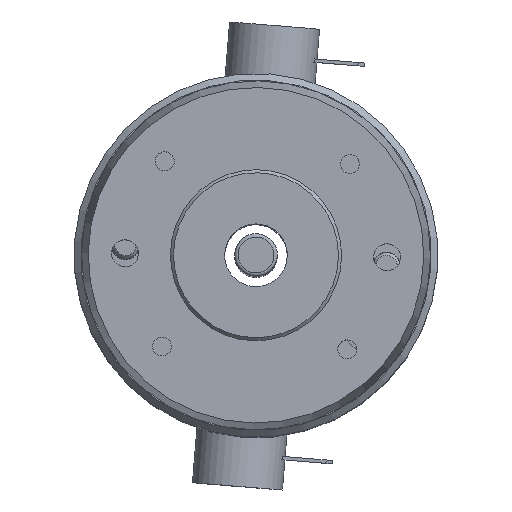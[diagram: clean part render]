
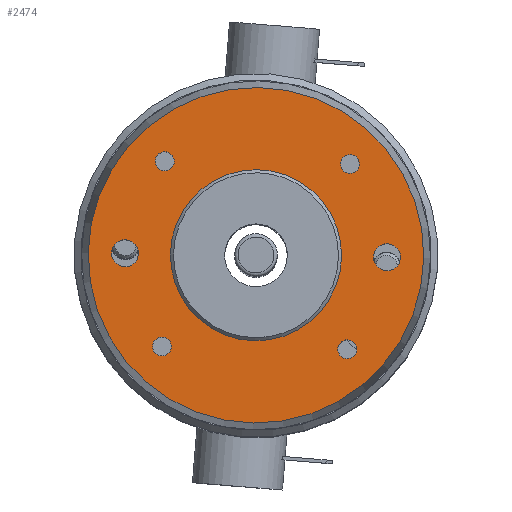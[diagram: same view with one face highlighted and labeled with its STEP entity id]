
A CAD part, top view. The second image highlights one B-rep face of the part: STEP entity #2474.
In plain terms, the highlighted planar face has unit normal (0, 0, 1).
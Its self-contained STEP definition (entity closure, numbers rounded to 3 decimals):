
#564=FACE_BOUND('',#764,.T.);
#565=FACE_BOUND('',#765,.T.);
#566=FACE_BOUND('',#766,.T.);
#567=FACE_BOUND('',#767,.T.);
#568=FACE_BOUND('',#768,.T.);
#569=FACE_BOUND('',#769,.T.);
#570=FACE_BOUND('',#770,.T.);
#614=FACE_OUTER_BOUND('',#763,.T.);
#763=EDGE_LOOP('',(#1714));
#764=EDGE_LOOP('',(#1715,#1716));
#765=EDGE_LOOP('',(#1717,#1718));
#766=EDGE_LOOP('',(#1719,#1720));
#767=EDGE_LOOP('',(#1721,#1722));
#768=EDGE_LOOP('',(#1723));
#769=EDGE_LOOP('',(#1724));
#770=EDGE_LOOP('',(#1725));
#944=CIRCLE('',#2878,1.4);
#945=CIRCLE('',#2879,1.4);
#947=CIRCLE('',#2882,1.4);
#948=CIRCLE('',#2883,1.4);
#950=CIRCLE('',#2886,1.4);
#951=CIRCLE('',#2887,1.4);
#953=CIRCLE('',#2890,1.4);
#954=CIRCLE('',#2891,1.4);
#955=CIRCLE('',#2893,2.);
#957=CIRCLE('',#2896,2.);
#961=CIRCLE('',#2903,12.7);
#962=CIRCLE('',#2905,24.9);
#1080=VERTEX_POINT('',#3988);
#1081=VERTEX_POINT('',#3990);
#1083=VERTEX_POINT('',#3996);
#1084=VERTEX_POINT('',#3998);
#1086=VERTEX_POINT('',#4004);
#1087=VERTEX_POINT('',#4006);
#1089=VERTEX_POINT('',#4012);
#1090=VERTEX_POINT('',#4014);
#1091=VERTEX_POINT('',#4018);
#1093=VERTEX_POINT('',#4024);
#1097=VERTEX_POINT('',#4038);
#1098=VERTEX_POINT('',#4042);
#1319=EDGE_CURVE('',#1081,#1080,#944,.T.);
#1320=EDGE_CURVE('',#1080,#1081,#945,.T.);
#1323=EDGE_CURVE('',#1084,#1083,#947,.T.);
#1324=EDGE_CURVE('',#1083,#1084,#948,.T.);
#1327=EDGE_CURVE('',#1087,#1086,#950,.T.);
#1328=EDGE_CURVE('',#1086,#1087,#951,.T.);
#1331=EDGE_CURVE('',#1090,#1089,#953,.T.);
#1332=EDGE_CURVE('',#1089,#1090,#954,.T.);
#1333=EDGE_CURVE('',#1091,#1091,#955,.T.);
#1336=EDGE_CURVE('',#1093,#1093,#957,.T.);
#1344=EDGE_CURVE('',#1097,#1097,#961,.T.);
#1345=EDGE_CURVE('',#1098,#1098,#962,.T.);
#1714=ORIENTED_EDGE('',*,*,#1345,.F.);
#1715=ORIENTED_EDGE('',*,*,#1319,.T.);
#1716=ORIENTED_EDGE('',*,*,#1320,.T.);
#1717=ORIENTED_EDGE('',*,*,#1323,.T.);
#1718=ORIENTED_EDGE('',*,*,#1324,.T.);
#1719=ORIENTED_EDGE('',*,*,#1327,.T.);
#1720=ORIENTED_EDGE('',*,*,#1328,.T.);
#1721=ORIENTED_EDGE('',*,*,#1331,.T.);
#1722=ORIENTED_EDGE('',*,*,#1332,.T.);
#1723=ORIENTED_EDGE('',*,*,#1333,.T.);
#1724=ORIENTED_EDGE('',*,*,#1336,.T.);
#1725=ORIENTED_EDGE('',*,*,#1344,.T.);
#2387=PLANE('',#2904);
#2474=ADVANCED_FACE('',(#614,#564,#565,#566,#567,#568,#569,#570),#2387,
 .F.);
#2878=AXIS2_PLACEMENT_3D('',#3991,#3200,#3201);
#2879=AXIS2_PLACEMENT_3D('',#3992,#3202,#3203);
#2882=AXIS2_PLACEMENT_3D('',#3999,#3209,#3210);
#2883=AXIS2_PLACEMENT_3D('',#4000,#3211,#3212);
#2886=AXIS2_PLACEMENT_3D('',#4007,#3218,#3219);
#2887=AXIS2_PLACEMENT_3D('',#4008,#3220,#3221);
#2890=AXIS2_PLACEMENT_3D('',#4015,#3227,#3228);
#2891=AXIS2_PLACEMENT_3D('',#4016,#3229,#3230);
#2893=AXIS2_PLACEMENT_3D('',#4019,#3233,#3234);
#2896=AXIS2_PLACEMENT_3D('',#4025,#3240,#3241);
#2903=AXIS2_PLACEMENT_3D('',#4040,#3258,#3259);
#2904=AXIS2_PLACEMENT_3D('',#4041,#3260,#3261);
#2905=AXIS2_PLACEMENT_3D('',#4043,#3262,#3263);
#3200=DIRECTION('center_axis',(0.,0.,-1.));
#3201=DIRECTION('ref_axis',(0.,1.,0.));
#3202=DIRECTION('center_axis',(0.,0.,-1.));
#3203=DIRECTION('ref_axis',(0.,1.,0.));
#3209=DIRECTION('center_axis',(0.,0.,-1.));
#3210=DIRECTION('ref_axis',(-1.,0.,0.));
#3211=DIRECTION('center_axis',(0.,0.,-1.));
#3212=DIRECTION('ref_axis',(-1.,0.,0.));
#3218=DIRECTION('center_axis',(0.,0.,-1.));
#3219=DIRECTION('ref_axis',(0.,-1.,0.));
#3220=DIRECTION('center_axis',(0.,0.,-1.));
#3221=DIRECTION('ref_axis',(0.,-1.,0.));
#3227=DIRECTION('center_axis',(0.,0.,-1.));
#3228=DIRECTION('ref_axis',(1.,0.,0.));
#3229=DIRECTION('center_axis',(0.,0.,-1.));
#3230=DIRECTION('ref_axis',(1.,0.,0.));
#3233=DIRECTION('center_axis',(0.,0.,-1.));
#3234=DIRECTION('ref_axis',(-1.,0.,0.));
#3240=DIRECTION('center_axis',(0.,0.,-1.));
#3241=DIRECTION('ref_axis',(-1.,0.,0.));
#3258=DIRECTION('center_axis',(0.,0.,-1.));
#3259=DIRECTION('ref_axis',(-1.,0.,0.));
#3260=DIRECTION('center_axis',(0.,0.,-1.));
#3261=DIRECTION('ref_axis',(-1.,0.,0.));
#3262=DIRECTION('center_axis',(0.,0.,-1.));
#3263=DIRECTION('ref_axis',(-1.,0.,0.));
#3988=CARTESIAN_POINT('',(-13.75,12.35,5.));
#3990=CARTESIAN_POINT('',(-13.75,15.15,5.));
#3991=CARTESIAN_POINT('Origin',(-13.75,13.75,5.));
#3992=CARTESIAN_POINT('Origin',(-13.75,13.75,5.));
#3996=CARTESIAN_POINT('',(-12.35,-13.75,5.));
#3998=CARTESIAN_POINT('',(-15.15,-13.75,5.));
#3999=CARTESIAN_POINT('Origin',(-13.75,-13.75,5.));
#4000=CARTESIAN_POINT('Origin',(-13.75,-13.75,5.));
#4004=CARTESIAN_POINT('',(13.75,-12.35,5.));
#4006=CARTESIAN_POINT('',(13.75,-15.15,5.));
#4007=CARTESIAN_POINT('Origin',(13.75,-13.75,5.));
#4008=CARTESIAN_POINT('Origin',(13.75,-13.75,5.));
#4012=CARTESIAN_POINT('',(12.35,13.75,5.));
#4014=CARTESIAN_POINT('',(15.15,13.75,5.));
#4015=CARTESIAN_POINT('Origin',(13.75,13.75,5.));
#4016=CARTESIAN_POINT('Origin',(13.75,13.75,5.));
#4018=CARTESIAN_POINT('',(21.445,0.,5.));
#4019=CARTESIAN_POINT('Origin',(19.445,0.,5.));
#4024=CARTESIAN_POINT('',(-17.445,0.,5.));
#4025=CARTESIAN_POINT('Origin',(-19.445,0.,5.));
#4038=CARTESIAN_POINT('',(12.7,0.,5.));
#4040=CARTESIAN_POINT('Origin',(0.,0.,5.));
#4041=CARTESIAN_POINT('Origin',(0.,0.,5.));
#4042=CARTESIAN_POINT('',(-24.9,0.,5.));
#4043=CARTESIAN_POINT('Origin',(0.,0.,5.));
